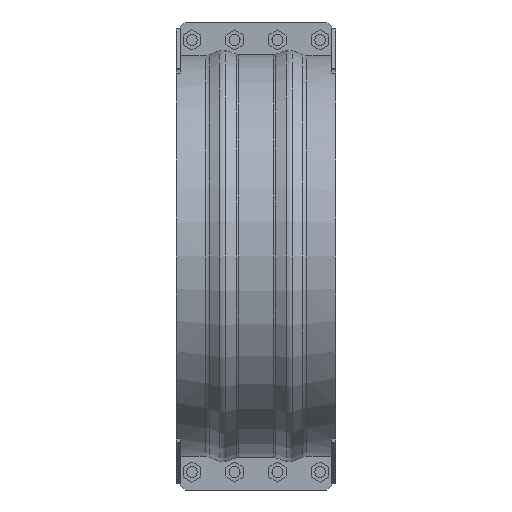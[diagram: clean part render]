
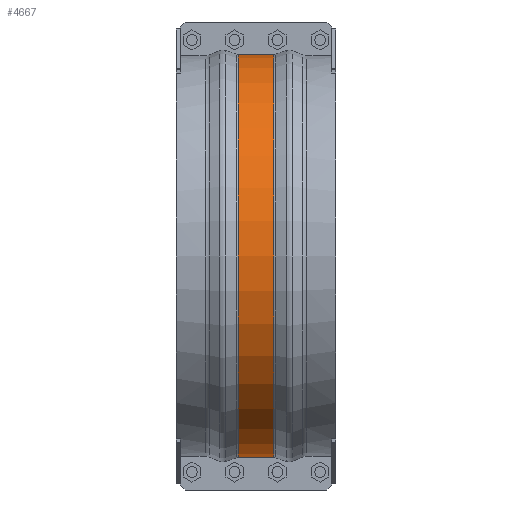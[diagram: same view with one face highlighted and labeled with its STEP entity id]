
A CAD part, front view. The second image highlights one B-rep face of the part: STEP entity #4667.
In plain terms, the highlighted cylindrical face has radius 473.377 mm (diameter 946.754 mm), a partial arc.
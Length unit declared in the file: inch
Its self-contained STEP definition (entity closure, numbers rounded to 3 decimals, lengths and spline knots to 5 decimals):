
#442=FACE_OUTER_BOUND('',#707,.T.);
#707=EDGE_LOOP('',(#3545,#3546,#3547,#3548));
#1078=LINE('',#7181,#1527);
#1080=LINE('',#7325,#1529);
#1527=VECTOR('',#5760,0.3937);
#1529=VECTOR('',#5814,0.3937);
#1811=CIRCLE('',#4991,18.63689);
#1813=CIRCLE('',#4995,18.63689);
#2104=VERTEX_POINT('',#7173);
#2105=VERTEX_POINT('',#7180);
#2120=VERTEX_POINT('',#7310);
#2122=VERTEX_POINT('',#7323);
#2621=EDGE_CURVE('',#2105,#2104,#1078,.T.);
#2646=EDGE_CURVE('',#2120,#2105,#1811,.T.);
#2650=EDGE_CURVE('',#2122,#2104,#1813,.T.);
#2651=EDGE_CURVE('',#2122,#2120,#1080,.T.);
#3545=ORIENTED_EDGE('',*,*,#2621,.T.);
#3546=ORIENTED_EDGE('',*,*,#2650,.F.);
#3547=ORIENTED_EDGE('',*,*,#2651,.T.);
#3548=ORIENTED_EDGE('',*,*,#2646,.T.);
#4278=CYLINDRICAL_SURFACE('',#4994,18.63689);
#4667=ADVANCED_FACE('',(#442),#4278,.T.);
#4991=AXIS2_PLACEMENT_3D('',#7311,#5803,#5804);
#4994=AXIS2_PLACEMENT_3D('',#7322,#5810,#5811);
#4995=AXIS2_PLACEMENT_3D('',#7324,#5812,#5813);
#5760=DIRECTION('',(1.,0.,0.));
#5803=DIRECTION('center_axis',(1.,0.,0.));
#5804=DIRECTION('ref_axis',(0.,0.,-1.));
#5810=DIRECTION('center_axis',(1.,0.,0.));
#5811=DIRECTION('ref_axis',(0.,-1.,0.));
#5812=DIRECTION('center_axis',(1.,0.,0.));
#5813=DIRECTION('ref_axis',(0.,0.,-1.));
#5814=DIRECTION('',(-1.,0.,0.));
#7173=CARTESIAN_POINT('',(1.64101,-0.375,-18.63312));
#7180=CARTESIAN_POINT('',(-1.64101,-0.375,-18.63312));
#7181=CARTESIAN_POINT('',(0.,-0.375,-18.63312));
#7310=CARTESIAN_POINT('',(-1.64101,-0.375,18.63312));
#7311=CARTESIAN_POINT('Origin',(-1.64101,0.,0.));
#7322=CARTESIAN_POINT('Origin',(0.,0.,0.));
#7323=CARTESIAN_POINT('',(1.64101,-0.375,18.63312));
#7324=CARTESIAN_POINT('Origin',(1.64101,0.,0.));
#7325=CARTESIAN_POINT('',(0.,-0.375,18.63312));
